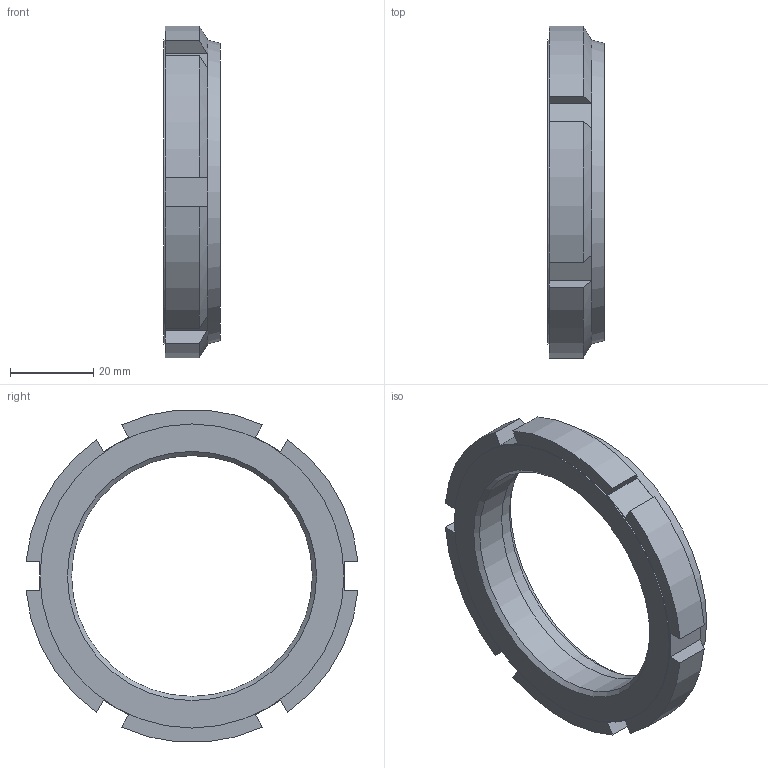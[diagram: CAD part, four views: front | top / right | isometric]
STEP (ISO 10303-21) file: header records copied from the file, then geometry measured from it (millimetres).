
FILE_DESCRIPTION( ( 'STEP AP203' ), '1' );
FILE_NAME( 'C:/Temp/Ganter_Step_05_03_2020/data/3_2/gn1804_1/Slotted locknut self-locking GN 1804.1-M60x2.stp', '2020-03-13T05:25:18', ( 'License CC BY-ND 4.0' ), ( 'CADENAS' ), ' ', 'PARTsolutions', ' ' );
FILE_SCHEMA( ( 'CONFIG_CONTROL_DESIGN' ) );
Length unit declared in the file: millimetre
Products named in the file (1): _Slotted locknut self-locking GN 1804.1-M60x2
Bounding box: 13.5 x 79.69 x 79.7 mm (x, y, z)
Volume: 25918.6 mm3; surface area: 10102.7 mm2
Topology: 1 solids, 1 shells, 46 faces, 113 edges, 71 vertices
Faces by surface type: plane 28, cylinder 10, cone 8
Full cylindrical faces by diameter (mm): 57.835 x1, 59.6 x1, 62 x1, 73 x1
Entity records: 1382 total; most frequent: CARTESIAN_POINT 305, ORIENTED_EDGE 210, DIRECTION 208, EDGE_CURVE 105, AXIS2_PLACEMENT_3D 80, VERTEX_POINT 69, EDGE_LOOP 56, FACE_OUTER_BOUND 50
